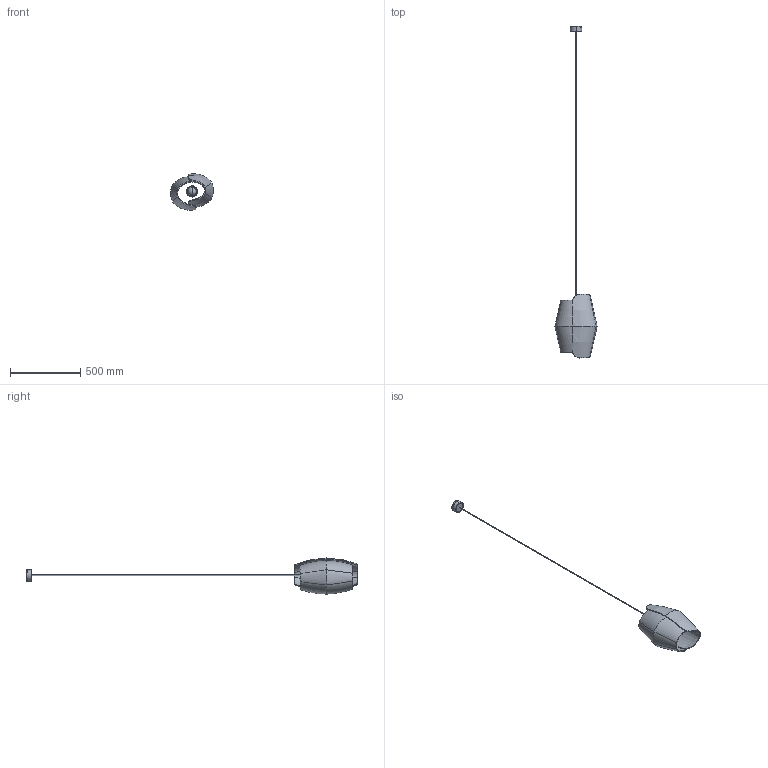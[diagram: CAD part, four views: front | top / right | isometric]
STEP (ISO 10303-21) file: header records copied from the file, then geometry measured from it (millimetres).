
FILE_DESCRIPTION (( 'STEP AP203' ), '1' );
FILE_NAME ('Volute - Pendant.STEP', '2023-03-31T01:33:17', ( '' ), ( '' ), 'SwSTEP 2.0', 'SolidWorks 2017', '' );
FILE_SCHEMA (( 'CONFIG_CONTROL_DESIGN' ));
Length unit declared in the file: millimetre
Products named in the file (1): Volute - Pendant
Bounding box: 301.7 x 2358.28 x 257.69 mm (x, y, z)
Volume: 2507053.8 mm3; surface area: 796079.7 mm2
Topology: 4 solids, 4 shells, 66 faces, 161 edges, 104 vertices
Faces by surface type: bspline 40, plane 10, cylinder 10, sphere 2, cone 2, torus 2
Entity records: 24951 total; most frequent: CARTESIAN_POINT 23688, ORIENTED_EDGE 312, EDGE_CURVE 156, DIRECTION 122, B_SPLINE_CURVE_WITH_KNOTS 116, VERTEX_POINT 101, EDGE_LOOP 69, ADVANCED_FACE 66
